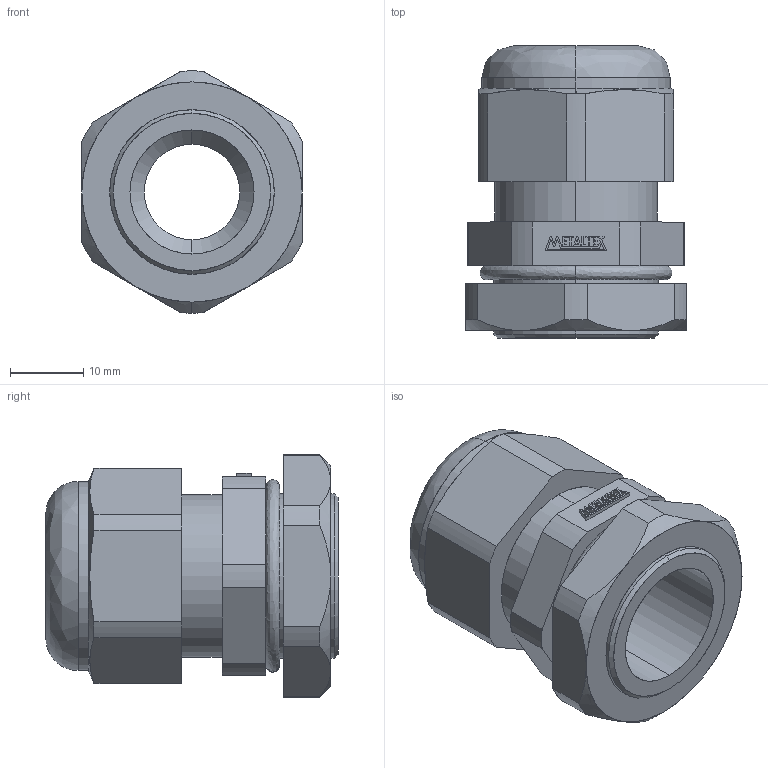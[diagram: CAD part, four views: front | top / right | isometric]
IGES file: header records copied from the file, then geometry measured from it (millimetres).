
Start section: SolidWorks IGES file using analytic representation for surfaces
Global section: file name: D:\X - Arquivos\PROEX\Empresas\P11 - METALTEX\01 - Produtos\IGES\Terceira remessa\Etapa 2\CH-PG16.IGS; native system: SolidWorks 2012; preprocessor: SolidWorks 2012; author: Usuario; date: 180207.123727; units: millimetre
Bounding box: 30 x 39.8 x 33 mm (x, y, z)
Surface area: 7459.1 mm2 (no closed solid volume)
Topology: 0 solids, 0 shells, 174 faces, 1330 edges, 1330 vertices
Faces by surface type: bspline 125, revolution 49
